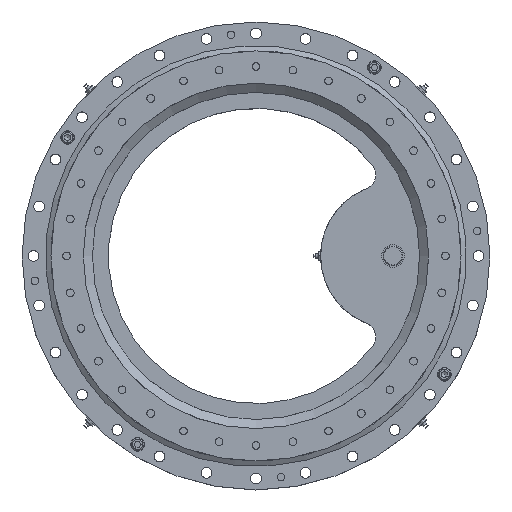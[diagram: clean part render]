
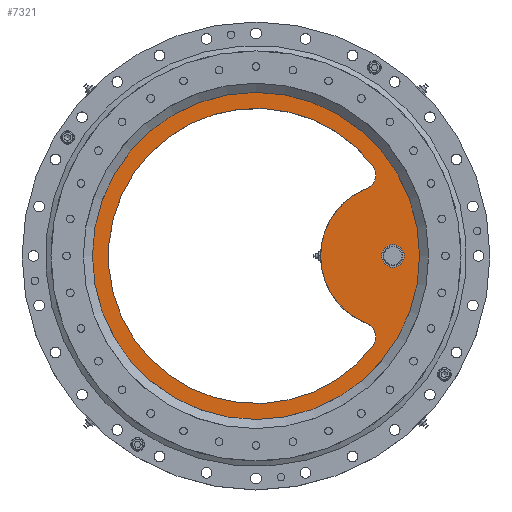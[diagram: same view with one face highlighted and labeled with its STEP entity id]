
A CAD part, top view. The second image highlights one B-rep face of the part: STEP entity #7321.
In plain terms, the highlighted planar face has unit normal (0, 0, 1).
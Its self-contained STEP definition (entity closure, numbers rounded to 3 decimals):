
#72=PLANE('',#7892);
#304=FACE_BOUND('',#1022,.T.);
#305=FACE_BOUND('',#1023,.T.);
#598=FACE_OUTER_BOUND('',#1021,.T.);
#1021=EDGE_LOOP('',(#5285));
#1022=EDGE_LOOP('',(#5286));
#1023=EDGE_LOOP('',(#5287,#5288,#5289,#5290));
#2474=CIRCLE('',#7750,194.);
#2478=CIRCLE('',#7755,95.);
#2570=CIRCLE('',#7886,20.);
#2573=CIRCLE('',#7891,20.);
#2574=CIRCLE('',#7893,216.);
#2575=CIRCLE('',#7894,13.);
#3047=VERTEX_POINT('',#10980);
#3048=VERTEX_POINT('',#10981);
#3055=VERTEX_POINT('',#10996);
#3056=VERTEX_POINT('',#10998);
#3149=VERTEX_POINT('',#11445);
#3150=VERTEX_POINT('',#11447);
#3883=EDGE_CURVE('',#3047,#3048,#2474,.T.);
#3891=EDGE_CURVE('',#3055,#3056,#2478,.T.);
#4022=EDGE_CURVE('',#3047,#3056,#2570,.T.);
#4025=EDGE_CURVE('',#3055,#3048,#2573,.T.);
#4026=EDGE_CURVE('',#3149,#3149,#2574,.T.);
#4027=EDGE_CURVE('',#3150,#3150,#2575,.T.);
#5285=ORIENTED_EDGE('',*,*,#4026,.T.);
#5286=ORIENTED_EDGE('',*,*,#4027,.T.);
#5287=ORIENTED_EDGE('',*,*,#3883,.F.);
#5288=ORIENTED_EDGE('',*,*,#4022,.T.);
#5289=ORIENTED_EDGE('',*,*,#3891,.F.);
#5290=ORIENTED_EDGE('',*,*,#4025,.T.);
#7321=ADVANCED_FACE('',(#598,#304,#305),#72,.T.);
#7750=AXIS2_PLACEMENT_3D('',#10982,#8665,#8666);
#7755=AXIS2_PLACEMENT_3D('',#10999,#8679,#8680);
#7886=AXIS2_PLACEMENT_3D('',#11438,#8978,#8979);
#7891=AXIS2_PLACEMENT_3D('',#11443,#8988,#8989);
#7892=AXIS2_PLACEMENT_3D('',#11444,#8990,#8991);
#7893=AXIS2_PLACEMENT_3D('',#11446,#8992,#8993);
#7894=AXIS2_PLACEMENT_3D('',#11448,#8994,#8995);
#8665=DIRECTION('center_axis',(0.,0.,1.));
#8666=DIRECTION('ref_axis',(1.,0.,0.));
#8679=DIRECTION('center_axis',(0.,0.,-1.));
#8680=DIRECTION('ref_axis',(1.,0.,0.));
#8978=DIRECTION('center_axis',(0.,0.,-1.));
#8979=DIRECTION('ref_axis',(1.,0.,0.));
#8988=DIRECTION('center_axis',(0.,0.,-1.));
#8989=DIRECTION('ref_axis',(1.,0.,0.));
#8990=DIRECTION('center_axis',(0.,0.,1.));
#8991=DIRECTION('ref_axis',(1.,0.,0.));
#8992=DIRECTION('center_axis',(0.,0.,1.));
#8993=DIRECTION('ref_axis',(1.,0.,0.));
#8994=DIRECTION('center_axis',(0.,0.,-1.));
#8995=DIRECTION('ref_axis',(-1.,0.,0.));
#10980=CARTESIAN_POINT('',(178.586,120.758,469.578));
#10981=CARTESIAN_POINT('',(178.586,-117.404,469.578));
#10982=CARTESIAN_POINT('Origin',(25.433,1.677,469.578));
#10996=CARTESIAN_POINT('',(170.212,-86.553,469.578));
#10998=CARTESIAN_POINT('',(170.212,89.907,469.578));
#10999=CARTESIAN_POINT('Origin',(205.433,1.677,469.578));
#11438=CARTESIAN_POINT('Origin',(162.797,108.481,469.578));
#11443=CARTESIAN_POINT('Origin',(162.797,-105.127,469.578));
#11444=CARTESIAN_POINT('Origin',(25.433,1.677,469.578));
#11445=CARTESIAN_POINT('',(-190.567,1.677,469.578));
#11446=CARTESIAN_POINT('Origin',(25.433,1.677,469.578));
#11447=CARTESIAN_POINT('',(218.433,1.677,469.578));
#11448=CARTESIAN_POINT('Origin',(205.433,1.677,469.578));
